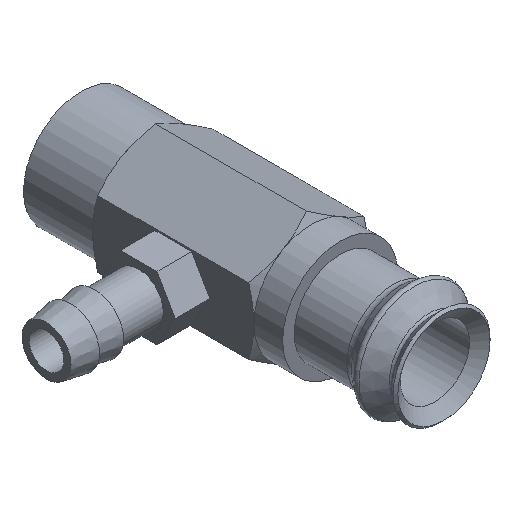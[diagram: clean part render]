
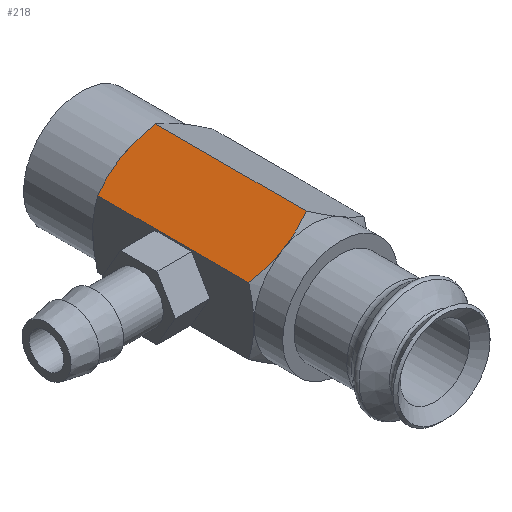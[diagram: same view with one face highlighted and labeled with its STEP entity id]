
A CAD part, isometric view. The second image highlights one B-rep face of the part: STEP entity #218.
In plain terms, the highlighted planar face has unit normal (-0.5, 0, 0.866).
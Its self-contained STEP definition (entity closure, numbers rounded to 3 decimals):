
#218=ADVANCED_FACE('',(#297),#298,.F.);
#297=FACE_OUTER_BOUND('',#479,.T.);
#298=PLANE('',#480);
#479=EDGE_LOOP('',(#702,#703,#704,#705,#706,#707));
#480=AXIS2_PLACEMENT_3D('',#708,#709,#710);
#702=ORIENTED_EDGE('',*,*,#1091,.T.);
#703=ORIENTED_EDGE('',*,*,#1093,.F.);
#704=ORIENTED_EDGE('',*,*,#1095,.F.);
#705=ORIENTED_EDGE('',*,*,#1096,.F.);
#706=ORIENTED_EDGE('',*,*,#1097,.F.);
#707=ORIENTED_EDGE('',*,*,#1083,.F.);
#708=CARTESIAN_POINT('',(-5.0,20.0,2.887));
#709=DIRECTION('',(0.5,0.0,-0.866));
#710=DIRECTION('',(0.0,-1.0,0.0));
#1083=EDGE_CURVE('',#1202,#1200,#1204,.T.);
#1091=EDGE_CURVE('',#1202,#1217,#1220,.T.);
#1093=EDGE_CURVE('',#1222,#1217,#1223,.T.);
#1095=EDGE_CURVE('',#1225,#1222,#1226,.T.);
#1096=EDGE_CURVE('',#1227,#1225,#1228,.T.);
#1097=EDGE_CURVE('',#1200,#1227,#1229,.T.);
#1200=VERTEX_POINT('',#1471);
#1202=VERTEX_POINT('',#1473);
#1204=B_SPLINE_CURVE_WITH_KNOTS('',3,(#1484,#1485,#1486,#1487,#1488,#1489,#1490,#1491,#1492,#1493),.UNSPECIFIED.,.F.,.F.,(4,1,1,1,1,1,1,4),(0.0,0.129,0.255,0.379,0.5,0.669,0.835,1.0),.UNSPECIFIED.);
#1217=VERTEX_POINT('',#1512);
#1220=LINE('',#1524,#1525);
#1222=VERTEX_POINT('',#1536);
#1223=B_SPLINE_CURVE_WITH_KNOTS('',3,(#1537,#1538,#1539,#1540,#1541,#1542,#1543,#1544,#1545,#1546),.UNSPECIFIED.,.F.,.F.,(4,1,1,1,1,1,1,4),(0.0,0.099,0.198,0.297,0.398,0.5,0.745,1.0),.UNSPECIFIED.);
#1225=VERTEX_POINT('',#1548);
#1226=B_SPLINE_CURVE_WITH_KNOTS('',3,(#1549,#1550,#1551,#1552,#1553,#1554,#1555,#1556,#1557,#1558),.UNSPECIFIED.,.F.,.F.,(4,1,1,1,1,1,1,4),(0.0,0.129,0.255,0.379,0.5,0.669,0.835,1.0),.UNSPECIFIED.);
#1227=VERTEX_POINT('',#1559);
#1228=LINE('',#1560,#1561);
#1229=B_SPLINE_CURVE_WITH_KNOTS('',3,(#1562,#1563,#1564,#1565,#1566,#1567,#1568,#1569,#1570,#1571),.UNSPECIFIED.,.F.,.F.,(4,1,1,1,1,1,1,4),(0.0,0.099,0.198,0.297,0.398,0.5,0.745,1.0),.UNSPECIFIED.);
#1471=CARTESIAN_POINT('',(-2.5,16.5,4.33));
#1473=CARTESIAN_POINT('',(-5.0,16.053,2.887));
#1484=CARTESIAN_POINT('',(-5.,16.053,2.887));
#1485=CARTESIAN_POINT('',(-4.895,16.088,2.947));
#1486=CARTESIAN_POINT('',(-4.687,16.155,3.067));
#1487=CARTESIAN_POINT('',(-4.376,16.243,3.247));
#1488=CARTESIAN_POINT('',(-4.069,16.318,3.425));
#1489=CARTESIAN_POINT('',(-3.724,16.39,3.624));
#1490=CARTESIAN_POINT('',(-3.341,16.45,3.844));
#1491=CARTESIAN_POINT('',(-2.92,16.492,4.088));
#1492=CARTESIAN_POINT('',(-2.64,16.497,4.249));
#1493=CARTESIAN_POINT('',(-2.5,16.5,4.33));
#1512=CARTESIAN_POINT('',(-5.0,2.947,2.887));
#1524=CARTESIAN_POINT('',(-5.0,20.0,2.887));
#1525=VECTOR('',#1864,1.0);
#1536=CARTESIAN_POINT('',(-2.5,2.5,4.33));
#1537=CARTESIAN_POINT('',(-2.5,2.5,4.33));
#1538=CARTESIAN_POINT('',(-2.584,2.501,4.282));
#1539=CARTESIAN_POINT('',(-2.752,2.503,4.185));
#1540=CARTESIAN_POINT('',(-3.003,2.518,4.04));
#1541=CARTESIAN_POINT('',(-3.254,2.542,3.894));
#1542=CARTESIAN_POINT('',(-3.508,2.576,3.749));
#1543=CARTESIAN_POINT('',(-3.883,2.64,3.532));
#1544=CARTESIAN_POINT('',(-4.383,2.752,3.243));
#1545=CARTESIAN_POINT('',(-4.792,2.881,3.007));
#1546=CARTESIAN_POINT('',(-5.,2.947,2.887));
#1548=CARTESIAN_POINT('',(0.0,2.947,5.774));
#1549=CARTESIAN_POINT('',(0.,2.947,5.774));
#1550=CARTESIAN_POINT('',(-0.105,2.912,5.713));
#1551=CARTESIAN_POINT('',(-0.313,2.845,5.593));
#1552=CARTESIAN_POINT('',(-0.624,2.757,5.413));
#1553=CARTESIAN_POINT('',(-0.931,2.682,5.236));
#1554=CARTESIAN_POINT('',(-1.276,2.61,5.037));
#1555=CARTESIAN_POINT('',(-1.659,2.55,4.816));
#1556=CARTESIAN_POINT('',(-2.08,2.508,4.572));
#1557=CARTESIAN_POINT('',(-2.36,2.503,4.411));
#1558=CARTESIAN_POINT('',(-2.5,2.5,4.33));
#1559=CARTESIAN_POINT('',(0.0,16.053,5.774));
#1560=CARTESIAN_POINT('',(0.0,20.0,5.774));
#1561=VECTOR('',#1868,1.0);
#1562=CARTESIAN_POINT('',(-2.5,16.5,4.33));
#1563=CARTESIAN_POINT('',(-2.416,16.499,4.379));
#1564=CARTESIAN_POINT('',(-2.248,16.497,4.475));
#1565=CARTESIAN_POINT('',(-1.997,16.482,4.62));
#1566=CARTESIAN_POINT('',(-1.745,16.458,4.766));
#1567=CARTESIAN_POINT('',(-1.492,16.424,4.912));
#1568=CARTESIAN_POINT('',(-1.118,16.36,5.129));
#1569=CARTESIAN_POINT('',(-0.617,16.248,5.417));
#1570=CARTESIAN_POINT('',(-0.208,16.119,5.653));
#1571=CARTESIAN_POINT('',(0.,16.053,5.774));
#1864=DIRECTION('',(0.0,-1.0,0.0));
#1868=DIRECTION('',(0.0,-1.0,0.0));
